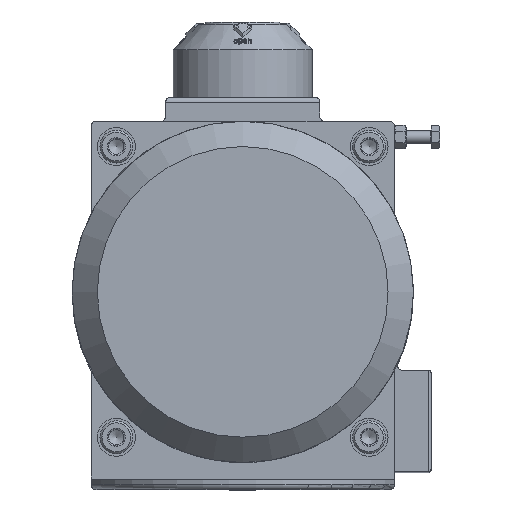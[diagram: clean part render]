
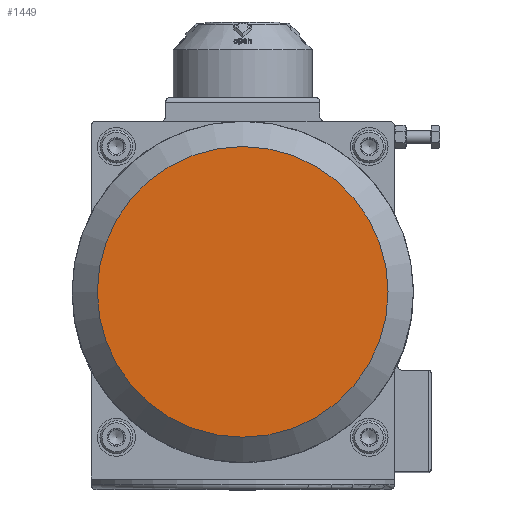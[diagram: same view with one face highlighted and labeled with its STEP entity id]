
A CAD part, top view. The second image highlights one B-rep face of the part: STEP entity #1449.
In plain terms, the highlighted planar face has unit normal (0, 0, 1).
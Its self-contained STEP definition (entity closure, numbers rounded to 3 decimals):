
#1449=ADVANCED_FACE('',(#10213),#10215,.T.);
#10213=FACE_BOUND('',#10214,.T.);
#10214=EDGE_LOOP('',(#17170));
#10215=PLANE('',#10216);
#10216=AXIS2_PLACEMENT_3D('',#10217,#10218,#10219);
#10217=CARTESIAN_POINT('',(0.,0.,150.5));
#10218=DIRECTION('',(0.,0.,1.));
#10219=DIRECTION('',(1.,0.,0.));
#17170=ORIENTED_EDGE('',*,*,#22718,.T.);
#22718=EDGE_CURVE('',#25452,#25452,#25453,.T.);
#25452=VERTEX_POINT('',#30198);
#25453=CIRCLE('',#30199,57.5);
#30198=CARTESIAN_POINT('',(57.5,0.,150.5));
#30199=AXIS2_PLACEMENT_3D('',#30200,#30201,#30202);
#30200=CARTESIAN_POINT('',(0.,0.,150.5));
#30201=DIRECTION('',(0.,0.,1.));
#30202=DIRECTION('',(1.,0.,0.));
